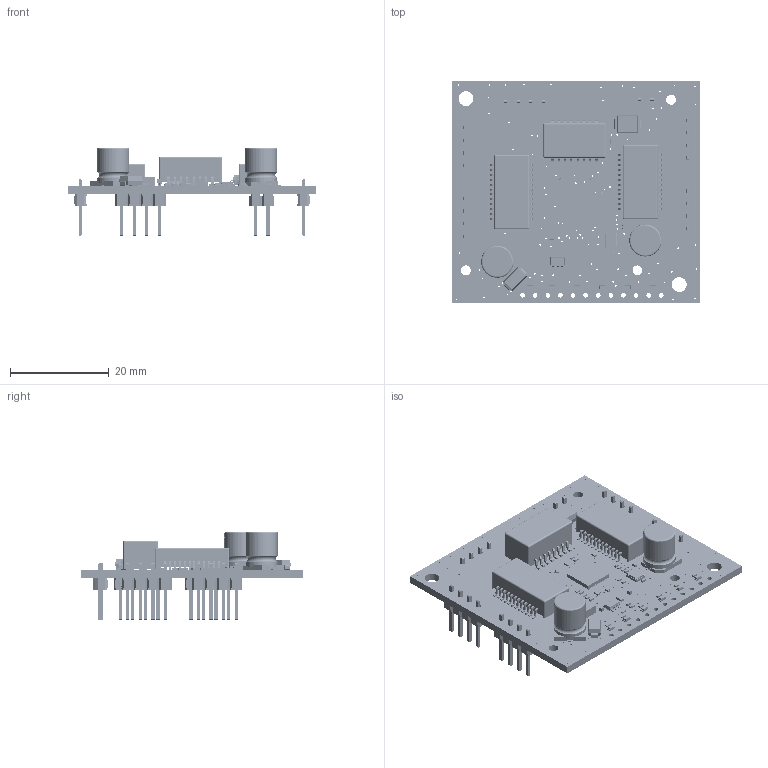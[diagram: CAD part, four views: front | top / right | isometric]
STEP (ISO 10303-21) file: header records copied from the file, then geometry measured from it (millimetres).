
FILE_DESCRIPTION(('Designed by EasyEDA Pro'),'2;1');
FILE_NAME('Open CASCADE Shape Model','2026-07-25T11:31:35',('Author'),( 'Open CASCADE'),'Open CASCADE STEP processor 7.8','Open CASCADE 7.8' ,'Unknown');
FILE_SCHEMA(('AUTOMOTIVE_DESIGN { 1 0 10303 214 1 1 1 1 }'));
Length unit declared in the file: millimetre
Products named in the file (444): EasyEDA PCB Model~SCIS; Board~SCIS; TopCopper~SCIS; BottomCopper~SCIS; TopSilkscreen~SCIS; BottomSilkscreen~SCIS; TopFpcStiffener~SCIS; BottomFpcStiffener~SCIS; C1~1206~C1206_L3.2-W1.6-H1.3_1~SCIS; 1206~C1206_L3.2-W1.6-H1.3_1~SCIS; C2~1206~C1206_L3.2-W1.6-H1.3_1~SCIS; L10A~IND-SMD_L4.1-W4.1_FEXL0420~o49e; L5~L10A~IND-SMD_L4.1-W4.1_FEXL0420~J4yB; SMB~SMB~c3rR; D2~SMB~SMB~6Q4d; 0402~R0402_L1.0-W0.5-H0.4~bfsn; R5~0402~R0402_L1.0-W0.5-H0.4~8HCv; R1~0402~R0402_L1.0-W0.5-H0.4~9je7; R2~0402~R0402_L1.0-W0.5-H0.4~5W57; R3~0402~R0402_L1.0-W0.5-H0.4~FwuP; R4~0402~R0402_L1.0-W0.5-H0.4~d8Un; R6~0402~R0402_L1.0-W0.5-H0.4~gbGD; R7~0402~R0402_L1.0-W0.5-H0.4~Qbn1; R8~0402~R0402_L1.0-W0.5-H0.4~nhJJ; R9~0402~R0402_L1.0-W0.5-H0.4~6gVQ; R10~0402~R0402_L1.0-W0.5-H0.4~a1gZ; R11~0402~R0402_L1.0-W0.5-H0.4~Rt2S; R12~0402~R0402_L1.0-W0.5-H0.4~WvlN; R13~0402~R0402_L1.0-W0.5-H0.4~TvmP; R14~0402~R0402_L1.0-W0.5-H0.4~hnXi; R15~0402~R0402_L1.0-W0.5-H0.4~QylA; R16~0402~R0402_L1.0-W0.5-H0.4~XNP9; R17~0402~R0402_L1.0-W0.5-H0.4~8pZL; R18~0402~R0402_L1.0-W0.5-H0.4~OaMv; R19~0402~R0402_L1.0-W0.5-H0.4~q2Uh; R20~0402~R0402_L1.0-W0.5-H0.4~TCW9; R21~0402~R0402_L1.0-W0.5-H0.4~7zXw; R22~0402~R0402_L1.0-W0.5-H0.4~2VFK; R23~0402~R0402_L1.0-W0.5-H0.4~r4id; R24~0402~R0402_L1.0-W0.5-H0.4~vFo3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
Assembly tree (488 placements, depth 3):
  EasyEDA PCB Model~SCIS
    Board~SCIS
    TopCopper~SCIS
      TopCopper~SCIS
      TopCopper~SCIS
      TopCopper~SCIS
      TopCopper~SCIS
      TopCopper~SCIS
      TopCopper~SCIS
      TopCopper~SCIS
      TopCopper~SCIS
      TopCopper~SCIS
      TopCopper~SCIS
      TopCopper~SCIS
      TopCopper~SCIS
      TopCopper~SCIS
      TopCopper~SCIS
      TopCopper~SCIS
      TopCopper~SCIS
      TopCopper~SCIS
      TopCopper~SCIS
      TopCopper~SCIS
      TopCopper~SCIS
      TopCopper~SCIS
      TopCopper~SCIS
      TopCopper~SCIS
      TopCopper~SCIS
      TopCopper~SCIS
      TopCopper~SCIS
      TopCopper~SCIS
      TopCopper~SCIS
      TopCopper~SCIS
      TopCopper~SCIS
      TopCopper~SCIS
      TopCopper~SCIS
      TopCopper~SCIS
      TopCopper~SCIS
      TopCopper~SCIS
      TopCopper~SCIS
      TopCopper~SCIS
      TopCopper~SCIS
      TopCopper~SCIS
      TopCopper~SCIS
      TopCopper~SCIS
      TopCopper~SCIS
      TopCopper~SCIS
      TopCopper~SCIS
      TopCopper~SCIS
      TopCopper~SCIS
      TopCopper~SCIS
      TopCopper~SCIS
      TopCopper~SCIS
      TopCopper~SCIS
      TopCopper~SCIS
      TopCopper~SCIS
      TopCopper~SCIS
      TopCopper~SCIS
      TopCopper~SCIS
      TopCopper~SCIS
      TopCopper~SCIS
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Bounding box: 49.97 x 44.97 x 17.86 mm (x, y, z)
Volume: 5842 mm3; surface area: 11877.2 mm2
Topology: 190 solids, 549 shells, 19685 faces, 63059 edges, 45382 vertices
Faces by surface type: plane 12111, bspline 6126, cylinder 1330, sphere 94, torus 24
Full cylindrical faces by diameter (mm): 0.189 x1
Entity records: 364414 total; most frequent: CARTESIAN_POINT 83378, ORIENTED_EDGE 42488, DIRECTION 39045, EDGE_CURVE 26377, VERTEX_POINT 21092, LINE 16471, VECTOR 16471, AXIS2_PLACEMENT_3D 11287
